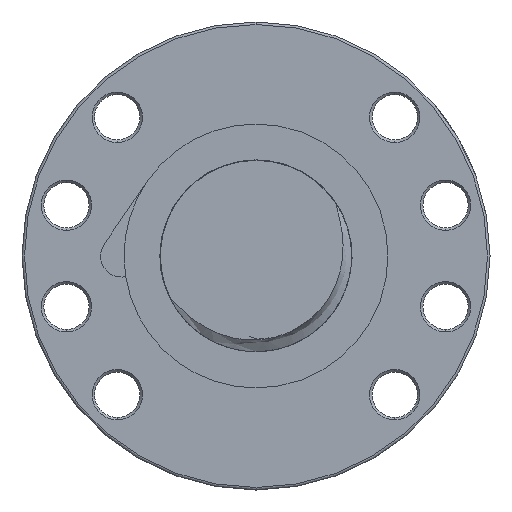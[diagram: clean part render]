
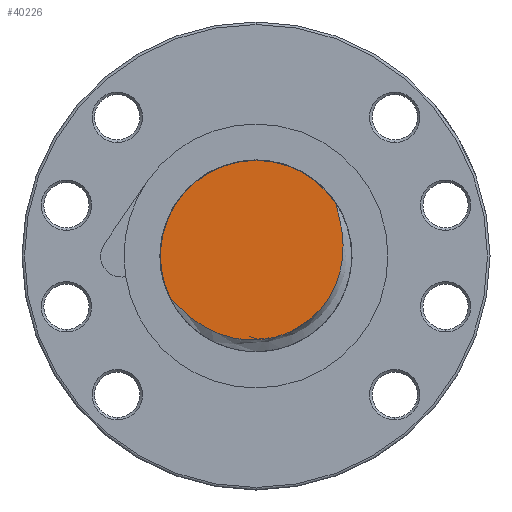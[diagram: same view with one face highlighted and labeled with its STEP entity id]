
A CAD part, left-side view. The second image highlights one B-rep face of the part: STEP entity #40226.
In plain terms, the highlighted planar face has unit normal (-1, 0, 0).
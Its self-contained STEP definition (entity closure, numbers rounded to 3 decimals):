
#11766 = DIRECTION ( 'NONE',  ( 0., 0., -1. ) ) ;
#11767 = DIRECTION ( 'NONE',  ( 1., 0., 0. ) ) ;
#11778 = CARTESIAN_POINT ( 'NONE',  ( -232., 0., 0. ) ) ;
#11780 = CARTESIAN_POINT ( 'NONE',  ( -232., 16.542, -8.907 ) ) ;
#11781 = CARTESIAN_POINT ( 'NONE',  ( -232., 16.756, -8.705 ) ) ;
#11782 = CARTESIAN_POINT ( 'NONE',  ( -232., 16.983, -8.519 ) ) ;
#11783 = B_SPLINE_CURVE_WITH_KNOTS ( 'NONE', 3,
 ( #11782, #11781, #11780, #11901, #11900, #11899, #11898, #11897, #11896, #11895, #11894, #11893, #11892, #11891, #11890, #11889, #11888, #11887, #11886, #11885, #11884, #11883, #11882, #11881, #11880, #11879, #11878, #11877, #11876, #11875, #11874, #11873, #11872, #11871, #11870, #11869, #11868, #11867, #11866, #11865, #11864, #11863, #11862, #11861, #11860, #11859, #11858, #11857, #11856, #11855, #11854, #11853, #11852, #11851, #11850, #11849 ),
 .UNSPECIFIED., .F., .F.,
 ( 4, 2, 2, 2, 2, 2, 2, 2, 2, 2, 2, 2, 2, 2, 2, 2, 2, 2, 2, 2, 2, 2, 2, 2, 2, 2, 2, 4 ),
 ( 0.015, 0.016, 0.017, 0.018, 0.022, 0.023, 0.025, 0.029, 0.03, 0.032, 0.036, 0.037, 0.039, 0.043, 0.044, 0.046, 0.048, 0.049, 0.053, 0.055, 0.056, 0.06, 0.062, 0.063, 0.067, 0.069, 0.069, 0.07 ),
 .UNSPECIFIED. ) ;
#11849 = CARTESIAN_POINT ( 'NONE',  ( -232., -15.869, 10.448 ) ) ;
#11850 = CARTESIAN_POINT ( 'NONE',  ( -232., -15.917, 10.159 ) ) ;
#11851 = CARTESIAN_POINT ( 'NONE',  ( -232., -15.984, 9.873 ) ) ;
#11852 = CARTESIAN_POINT ( 'NONE',  ( -232., -16.124, 9.303 ) ) ;
#11853 = CARTESIAN_POINT ( 'NONE',  ( -232., -16.198, 9.019 ) ) ;
#11854 = CARTESIAN_POINT ( 'NONE',  ( -232., -16.418, 8.167 ) ) ;
#11855 = CARTESIAN_POINT ( 'NONE',  ( -232., -16.562, 7.598 ) ) ;
#11856 = CARTESIAN_POINT ( 'NONE',  ( -232., -16.943, 5.885 ) ) ;
#11857 = CARTESIAN_POINT ( 'NONE',  ( -232., -17.133, 4.734 ) ) ;
#11858 = CARTESIAN_POINT ( 'NONE',  ( -232., -17.278, 2.989 ) ) ;
#11859 = CARTESIAN_POINT ( 'NONE',  ( -232., -17.304, 2.404 ) ) ;
#11860 = CARTESIAN_POINT ( 'NONE',  ( -232., -17.305, 1.228 ) ) ;
#11861 = CARTESIAN_POINT ( 'NONE',  ( -232., -17.28, 0.635 ) ) ;
#11862 = CARTESIAN_POINT ( 'NONE',  ( -232., -17.128, -1.124 ) ) ;
#11863 = CARTESIAN_POINT ( 'NONE',  ( -232., -16.925, -2.276 ) ) ;
#11864 = CARTESIAN_POINT ( 'NONE',  ( -232., -16.46, -3.971 ) ) ;
#11865 = CARTESIAN_POINT ( 'NONE',  ( -232., -16.278, -4.532 ) ) ;
#11866 = CARTESIAN_POINT ( 'NONE',  ( -232., -15.858, -5.639 ) ) ;
#11867 = CARTESIAN_POINT ( 'NONE',  ( -232., -15.623, -6.178 ) ) ;
#11868 = CARTESIAN_POINT ( 'NONE',  ( -232., -14.846, -7.754 ) ) ;
#11869 = CARTESIAN_POINT ( 'NONE',  ( -232., -14.232, -8.75 ) ) ;
#11870 = CARTESIAN_POINT ( 'NONE',  ( -232., -13.159, -10.155 ) ) ;
#11871 = CARTESIAN_POINT ( 'NONE',  ( -232., -12.776, -10.609 ) ) ;
#11872 = CARTESIAN_POINT ( 'NONE',  ( -232., -11.974, -11.469 ) ) ;
#11873 = CARTESIAN_POINT ( 'NONE',  ( -232., -11.554, -11.876 ) ) ;
#11874 = CARTESIAN_POINT ( 'NONE',  ( -232., -10.677, -12.649 ) ) ;
#11875 = CARTESIAN_POINT ( 'NONE',  ( -232., -10.22, -13.013 ) ) ;
#11876 = CARTESIAN_POINT ( 'NONE',  ( -232., -9.266, -13.697 ) ) ;
#11877 = CARTESIAN_POINT ( 'NONE',  ( -232., -8.768, -14.019 ) ) ;
#11878 = CARTESIAN_POINT ( 'NONE',  ( -232., -7.233, -14.904 ) ) ;
#11879 = CARTESIAN_POINT ( 'NONE',  ( -232., -6.167, -15.385 ) ) ;
#11880 = CARTESIAN_POINT ( 'NONE',  ( -232., -4.505, -15.945 ) ) ;
#11881 = CARTESIAN_POINT ( 'NONE',  ( -232., -3.941, -16.105 ) ) ;
#11882 = CARTESIAN_POINT ( 'NONE',  ( -232., -2.791, -16.37 ) ) ;
#11883 = CARTESIAN_POINT ( 'NONE',  ( -232., -2.206, -16.475 ) ) ;
#11884 = CARTESIAN_POINT ( 'NONE',  ( -232., -0.461, -16.7 ) ) ;
#11885 = CARTESIAN_POINT ( 'NONE',  ( -232., 0.705, -16.735 ) ) ;
#11886 = CARTESIAN_POINT ( 'NONE',  ( -232., 2.458, -16.62 ) ) ;
#11887 = CARTESIAN_POINT ( 'NONE',  ( -232., 3.043, -16.553 ) ) ;
#11888 = CARTESIAN_POINT ( 'NONE',  ( -232., 4.212, -16.363 ) ) ;
#11889 = CARTESIAN_POINT ( 'NONE',  ( -232., 4.787, -16.241 ) ) ;
#11890 = CARTESIAN_POINT ( 'NONE',  ( -232., 6.486, -15.797 ) ) ;
#11891 = CARTESIAN_POINT ( 'NONE',  ( -232., 7.584, -15.398 ) ) ;
#11892 = CARTESIAN_POINT ( 'NONE',  ( -232., 9.181, -14.652 ) ) ;
#11893 = CARTESIAN_POINT ( 'NONE',  ( -232., 9.707, -14.377 ) ) ;
#11894 = CARTESIAN_POINT ( 'NONE',  ( -232., 10.727, -13.788 ) ) ;
#11895 = CARTESIAN_POINT ( 'NONE',  ( -232., 11.221, -13.473 ) ) ;
#11896 = CARTESIAN_POINT ( 'NONE',  ( -232., 12.662, -12.474 ) ) ;
#11897 = CARTESIAN_POINT ( 'NONE',  ( -232., 13.565, -11.734 ) ) ;
#11898 = CARTESIAN_POINT ( 'NONE',  ( -232., 14.859, -10.546 ) ) ;
#11899 = CARTESIAN_POINT ( 'NONE',  ( -232., 15.28, -10.137 ) ) ;
#11900 = CARTESIAN_POINT ( 'NONE',  ( -232., 15.909, -9.519 ) ) ;
#11901 = CARTESIAN_POINT ( 'NONE',  ( -232., 16.118, -9.313 ) ) ;
#11903 = PLANE ( 'NONE',  #11904 ) ;
#11904 = AXIS2_PLACEMENT_3D ( 'NONE', #11778, #11767, #11766 ) ;
#11905 = FACE_OUTER_BOUND ( 'NONE', #40227, .T. ) ;
#26874 = CARTESIAN_POINT ( 'NONE',  ( -232., -15.869, 10.448 ) ) ;
#26875 = DIRECTION ( 'NONE',  ( 0., 1., 0. ) ) ;
#26876 = DIRECTION ( 'NONE',  ( 1., 0., 0. ) ) ;
#26877 = AXIS2_PLACEMENT_3D ( 'NONE', #26883, #26876, #26875 ) ;
#26878 = CIRCLE ( 'NONE', #26877, 19. ) ;
#26883 = CARTESIAN_POINT ( 'NONE',  ( -232., 0., 0. ) ) ;
#32252 = CARTESIAN_POINT ( 'NONE',  ( -232., 0., 19. ) ) ;
#32384 = CARTESIAN_POINT ( 'NONE',  ( -232., 16.983, -8.519 ) ) ;
#32385 = DIRECTION ( 'NONE',  ( 0., 1., 0. ) ) ;
#32386 = DIRECTION ( 'NONE',  ( 1., 0., 0. ) ) ;
#32387 = CARTESIAN_POINT ( 'NONE',  ( -232., 0., 0. ) ) ;
#32388 = AXIS2_PLACEMENT_3D ( 'NONE', #32387, #32386, #32385 ) ;
#32389 = CIRCLE ( 'NONE', #32388, 19. ) ;
#39461 = EDGE_CURVE ( 'NONE', #39462, #39487, #32389, .T. ) ;
#39462 = VERTEX_POINT ( 'NONE', #32384 ) ;
#39487 = VERTEX_POINT ( 'NONE', #32252 ) ;
#39726 = EDGE_CURVE ( 'NONE', #39487, #39727, #26878, .T. ) ;
#39727 = VERTEX_POINT ( 'NONE', #26874 ) ;
#40226 = ADVANCED_FACE ( 'NONE', ( #11905 ), #11903, .F. ) ;
#40227 = EDGE_LOOP ( 'NONE', ( #40228, #40229, #40231 ) ) ;
#40228 = ORIENTED_EDGE ( 'NONE', *, *, #39461, .F. ) ;
#40229 = ORIENTED_EDGE ( 'NONE', *, *, #40230, .T. ) ;
#40230 = EDGE_CURVE ( 'NONE', #39462, #39727, #11783, .T. ) ;
#40231 = ORIENTED_EDGE ( 'NONE', *, *, #39726, .F. ) ;
